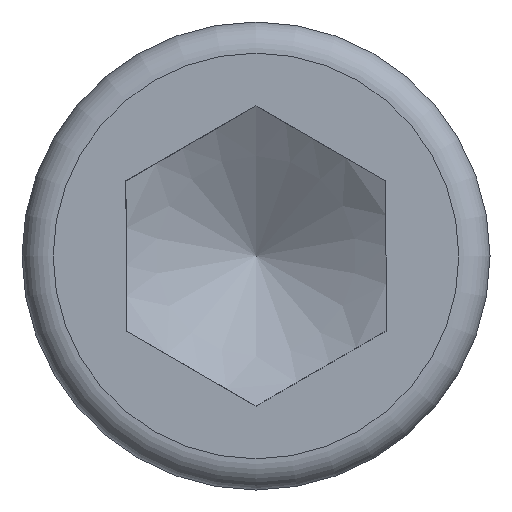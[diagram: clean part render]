
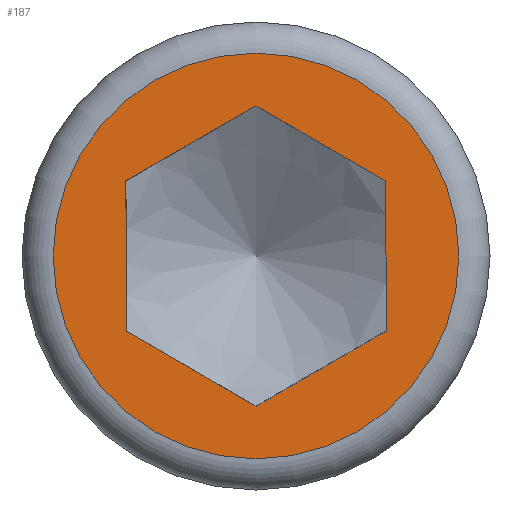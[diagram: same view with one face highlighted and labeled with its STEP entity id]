
A CAD part, left-side view. The second image highlights one B-rep face of the part: STEP entity #187.
In plain terms, the highlighted planar face has unit normal (-1, 0, 0).
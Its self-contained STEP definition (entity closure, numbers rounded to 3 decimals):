
#106=CARTESIAN_POINT('',(-12.,7.8,0.0));
#107=VERTEX_POINT('',#106);
#108=CARTESIAN_POINT('',(-12.,0.,0.0));
#109=DIRECTION('',(1.0,0.0,0.0));
#110=DIRECTION('',(0.0,-1.0,0.0));
#111=AXIS2_PLACEMENT_3D('',#108,#109,#110);
#112=CIRCLE('',#111,7.8);
#113=EDGE_CURVE('',#107,#107,#112,.T.);
#129=CARTESIAN_POINT('',(-12.,7.387,0.0));
#130=DIRECTION('',(-1.0,0.0,0.0));
#131=DIRECTION('',(0.0,0.0,1.0));
#132=AXIS2_PLACEMENT_3D('',#129,#130,#131);
#133=PLANE('',#132);
#134=ORIENTED_EDGE('',*,*,#113,.F.);
#135=EDGE_LOOP('',(#134));
#136=FACE_OUTER_BOUND('',#135,.T.);
#137=CARTESIAN_POINT('',(-12.,5.,-2.887));
#138=VERTEX_POINT('',#137);
#139=CARTESIAN_POINT('',(-12.,5.,2.887));
#140=VERTEX_POINT('',#139);
#141=CARTESIAN_POINT('',(-12.,5.,-2.887));
#142=DIRECTION('',(0.0,0.0,1.0));
#143=VECTOR('',#142,5.774);
#144=LINE('',#141,#143);
#145=EDGE_CURVE('',#138,#140,#144,.T.);
#146=ORIENTED_EDGE('',*,*,#145,.T.);
#147=CARTESIAN_POINT('',(-12.,0.,5.774));
#148=VERTEX_POINT('',#147);
#149=CARTESIAN_POINT('',(-12.,5.,2.887));
#150=DIRECTION('',(0.0,-0.866,0.5));
#151=VECTOR('',#150,5.774);
#152=LINE('',#149,#151);
#153=EDGE_CURVE('',#140,#148,#152,.T.);
#154=ORIENTED_EDGE('',*,*,#153,.T.);
#155=CARTESIAN_POINT('',(-12.,-5.,2.887));
#156=VERTEX_POINT('',#155);
#157=CARTESIAN_POINT('',(-12.,0.,5.774));
#158=DIRECTION('',(0.0,-0.866,-0.5));
#159=VECTOR('',#158,5.774);
#160=LINE('',#157,#159);
#161=EDGE_CURVE('',#148,#156,#160,.T.);
#162=ORIENTED_EDGE('',*,*,#161,.T.);
#163=CARTESIAN_POINT('',(-12.,-5.0,-2.887));
#164=VERTEX_POINT('',#163);
#165=CARTESIAN_POINT('',(-12.,-5.,2.887));
#166=DIRECTION('',(0.0,0.0,-1.0));
#167=VECTOR('',#166,5.774);
#168=LINE('',#165,#167);
#169=EDGE_CURVE('',#156,#164,#168,.T.);
#170=ORIENTED_EDGE('',*,*,#169,.T.);
#171=CARTESIAN_POINT('',(-12.,0.,-5.774));
#172=VERTEX_POINT('',#171);
#173=CARTESIAN_POINT('',(-12.,-5.0,-2.887));
#174=DIRECTION('',(0.0,0.866,-0.5));
#175=VECTOR('',#174,5.774);
#176=LINE('',#173,#175);
#177=EDGE_CURVE('',#164,#172,#176,.T.);
#178=ORIENTED_EDGE('',*,*,#177,.T.);
#179=CARTESIAN_POINT('',(-12.,0.,-5.774));
#180=DIRECTION('',(0.0,0.866,0.5));
#181=VECTOR('',#180,5.774);
#182=LINE('',#179,#181);
#183=EDGE_CURVE('',#172,#138,#182,.T.);
#184=ORIENTED_EDGE('',*,*,#183,.T.);
#185=EDGE_LOOP('',(#146,#154,#162,#170,#178,#184));
#186=FACE_BOUND('',#185,.T.);
#187=ADVANCED_FACE('',(#136,#186),#133,.T.);
